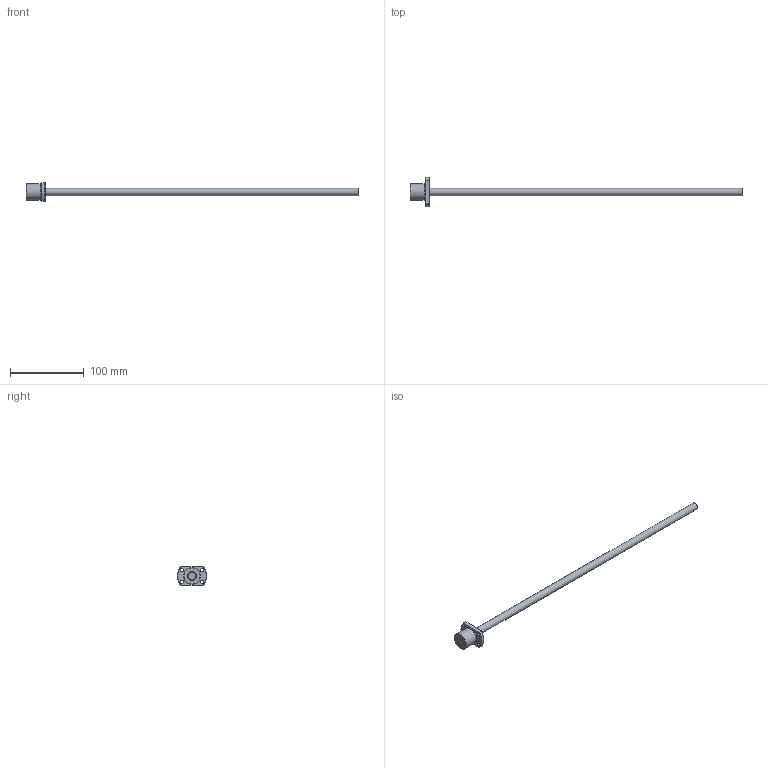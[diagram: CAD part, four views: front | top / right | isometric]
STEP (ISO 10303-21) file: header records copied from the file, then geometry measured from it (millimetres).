
FILE_DESCRIPTION( ( 'STEP AP203' ), '1' );
FILE_NAME( 'e:/temp/worker_91/temp/exporttempdir_4428_1840_YWUvd/format_0/SR1005 -450R450C7(0).stp', '2021-10-19T03:45:55', ( 'License CC BY-ND 4.0' ), ( 'CADENAS' ), ' ', 'PARTsolutions', ' ' );
FILE_SCHEMA( ( 'CONFIG_CONTROL_DESIGN' ) );
Length unit declared in the file: millimetre
Products named in the file (3): SR1005 -450R450C7(0); _SR1005 (0)_shaft; _SR1005 C7_nut
Assembly tree (2 placements, depth 2):
  SR1005 -450R450C7(0)
    _SR1005 (0)_shaft
    _SR1005 C7_nut
Bounding box: 450 x 40 x 25 mm (x, y, z)
Volume: 46231.5 mm3; surface area: 19050.4 mm2
Topology: 2 solids, 2 shells, 27 faces, 57 edges, 38 vertices
Faces by surface type: cylinder 12, plane 10, cone 5
Full cylindrical faces by diameter (mm): 4.5 x4, 10 x2, 12.4 x2, 22.7 x1, 23 x1
Entity records: 812 total; most frequent: CARTESIAN_POINT 136, DIRECTION 126, ORIENTED_EDGE 90, AXIS2_PLACEMENT_3D 59, EDGE_LOOP 52, EDGE_CURVE 45, FACE_OUTER_BOUND 37, VERTEX_POINT 37
